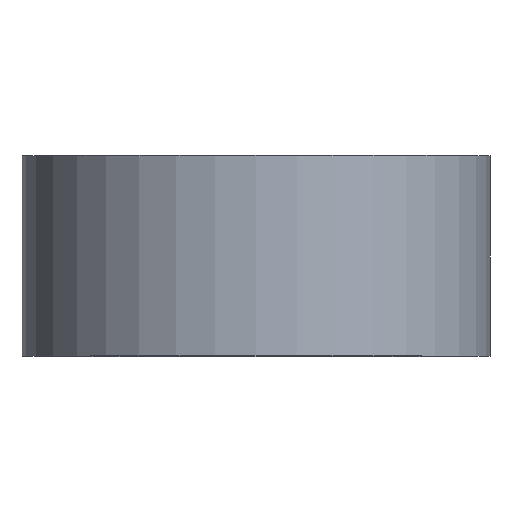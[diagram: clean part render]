
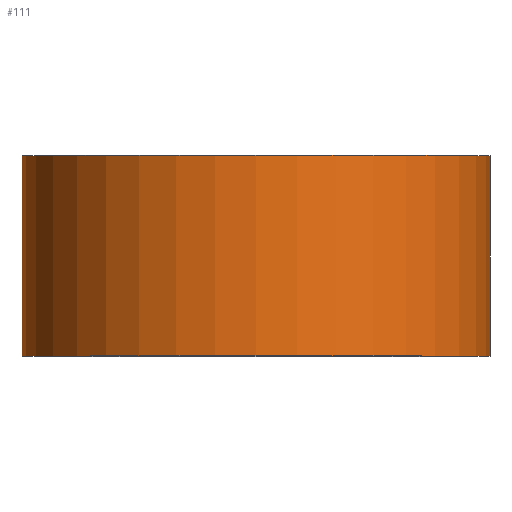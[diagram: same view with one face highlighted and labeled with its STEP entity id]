
A CAD part, top view. The second image highlights one B-rep face of the part: STEP entity #111.
In plain terms, the highlighted cylindrical face has radius 35 mm (diameter 70 mm), a partial arc.
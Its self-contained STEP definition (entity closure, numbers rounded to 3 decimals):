
#3 = LINE ( 'NONE', #48, #18 ) ;
#12 = ORIENTED_EDGE ( 'NONE', *, *, #58, .F. ) ;
#14 = CIRCLE ( 'NONE', #198, 35. ) ;
#18 = VECTOR ( 'NONE', #46, 1000. ) ;
#19 = LINE ( 'NONE', #237, #55 ) ;
#27 = AXIS2_PLACEMENT_3D ( 'NONE', #239, #82, #194 ) ;
#29 = AXIS2_PLACEMENT_3D ( 'NONE', #63, #141, #90 ) ;
#39 = VERTEX_POINT ( 'NONE', #217 ) ;
#44 = CARTESIAN_POINT ( 'NONE',  ( 35., 0., 0. ) ) ;
#46 = DIRECTION ( 'NONE',  ( 0., 1., 0. ) ) ;
#48 = CARTESIAN_POINT ( 'NONE',  ( 35., 0., 0. ) ) ;
#50 = CARTESIAN_POINT ( 'NONE',  ( 0., 30., 0. ) ) ;
#55 = VECTOR ( 'NONE', #83, 1000. ) ;
#58 = EDGE_CURVE ( 'NONE', #183, #39, #19, .T. ) ;
#63 = CARTESIAN_POINT ( 'NONE',  ( 0., 0., 0. ) ) ;
#82 = DIRECTION ( 'NONE',  ( 0., 1., 0. ) ) ;
#83 = DIRECTION ( 'NONE',  ( 0., 1., 0. ) ) ;
#84 = ORIENTED_EDGE ( 'NONE', *, *, #168, .T. ) ;
#90 = DIRECTION ( 'NONE',  ( -1., 0., 0. ) ) ;
#92 = ORIENTED_EDGE ( 'NONE', *, *, #185, .T. ) ;
#111 = ADVANCED_FACE ( 'NONE', ( #187 ), #283, .T. ) ;
#119 = DIRECTION ( 'NONE',  ( -1., 0., 0. ) ) ;
#120 = DIRECTION ( 'NONE',  ( 0., 1., 0. ) ) ;
#139 = CARTESIAN_POINT ( 'NONE',  ( 35., 30., 0. ) ) ;
#141 = DIRECTION ( 'NONE',  ( 0., 1., 0. ) ) ;
#164 = CARTESIAN_POINT ( 'NONE',  ( -35., 0., 0. ) ) ;
#168 = EDGE_CURVE ( 'NONE', #183, #211, #193, .T. ) ;
#183 = VERTEX_POINT ( 'NONE', #164 ) ;
#185 = EDGE_CURVE ( 'NONE', #211, #249, #3, .T. ) ;
#187 = FACE_OUTER_BOUND ( 'NONE', #234, .T. ) ;
#193 = CIRCLE ( 'NONE', #29, 35. ) ;
#194 = DIRECTION ( 'NONE',  ( -1., 0., 0. ) ) ;
#198 = AXIS2_PLACEMENT_3D ( 'NONE', #50, #120, #119 ) ;
#211 = VERTEX_POINT ( 'NONE', #44 ) ;
#217 = CARTESIAN_POINT ( 'NONE',  ( -35., 30., 0. ) ) ;
#230 = ORIENTED_EDGE ( 'NONE', *, *, #292, .F. ) ;
#234 = EDGE_LOOP ( 'NONE', ( #84, #92, #230, #12 ) ) ;
#237 = CARTESIAN_POINT ( 'NONE',  ( -35., 0., 0. ) ) ;
#239 = CARTESIAN_POINT ( 'NONE',  ( 0., 0., 0. ) ) ;
#249 = VERTEX_POINT ( 'NONE', #139 ) ;
#283 = CYLINDRICAL_SURFACE ( 'NONE', #27, 35. ) ;
#292 = EDGE_CURVE ( 'NONE', #39, #249, #14, .T. ) ;
